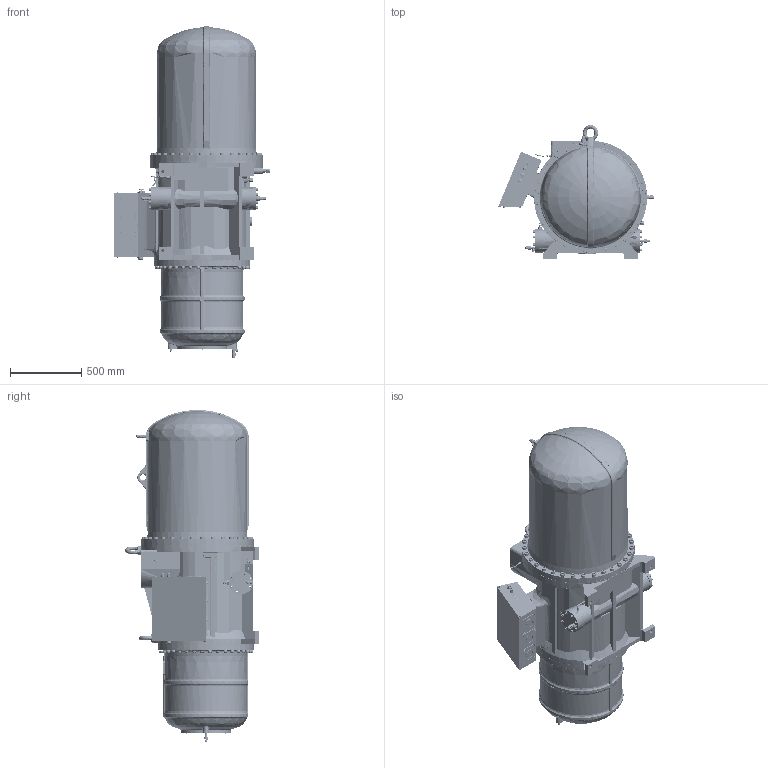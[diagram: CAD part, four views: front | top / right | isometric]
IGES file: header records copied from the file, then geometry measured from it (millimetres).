
Global section: file name: RC2-1270&1530(A&B) outline; native system: Autodesk Inventor 2017; preprocessor: unknown; author: hedylu; date: 20170628.141339; units: centimetre
Bounding box: 1085.95 x 935 x 2322 mm (x, y, z)
Surface area: 9700687.4 mm2 (no closed solid volume)
Topology: 0 solids, 0 shells, 3018 faces, 39374 edges, 39353 vertices
Faces by surface type: bspline 1579, revolution 1439
